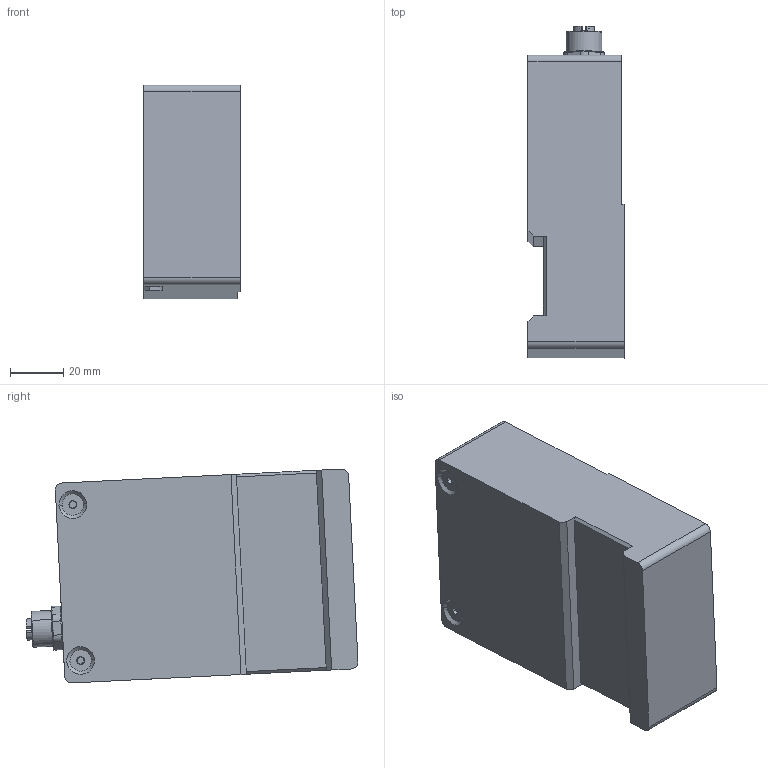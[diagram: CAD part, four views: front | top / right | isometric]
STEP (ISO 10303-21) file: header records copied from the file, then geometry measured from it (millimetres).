
FILE_DESCRIPTION((''),'2;1');
FILE_NAME('ADTEC-SS-0002-EVAL','2026-05-23T21:34:07',('w.i'),(''),'CREO PARAMETRIC BY PTC INC, 2023073','CREO PARAMETRIC BY PTC INC, 2023073','');
FILE_SCHEMA(('CONFIG_CONTROL_DESIGN','SHAPE_APPEARANCE_LAYERS_GROUPS'));
Length unit declared in the file: millimetre
Products named in the file (1): ADTEC-SS-0002-EVAL
Bounding box: 36 x 124.36 x 80.16 mm (x, y, z)
Volume: 279985.4 mm3; surface area: 33058.3 mm2
Topology: 1 solids, 6 shells, 562 faces, 1564 edges, 1036 vertices
Faces by surface type: plane 237, cylinder 183, cone 106, torus 20, bspline 16
Entity records: 25569 total; most frequent: CARTESIAN_POINT 8662, ORIENTED_EDGE 3096, DIRECTION 2949, EDGE_CURVE 1548, AXIS2_PLACEMENT_3D 1121, VERTEX_POINT 1036, VECTOR 707, LINE 707
